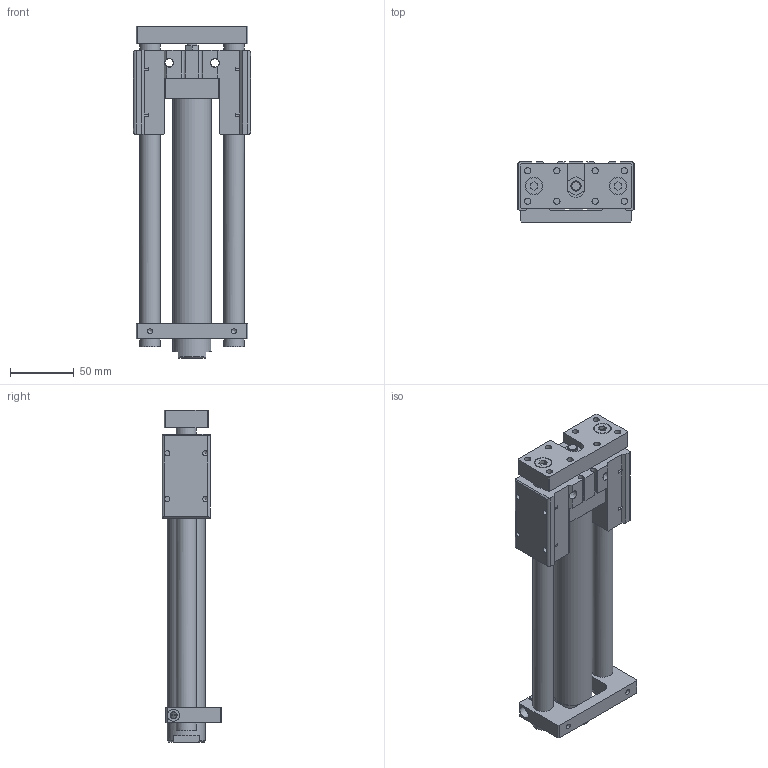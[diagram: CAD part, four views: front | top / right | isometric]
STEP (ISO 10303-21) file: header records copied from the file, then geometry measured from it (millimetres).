
FILE_DESCRIPTION((''),'2;1');
FILE_NAME('I:\3D電子目錄\氣缸\TMB(U)\TMB(U)\TMB(U)25\TMB(U)25x150.stp','2007-10-05T09:31:58',('Administrator'),(''),'Autodesk Inventor 11','Autodesk Inventor 11','');
FILE_SCHEMA(('AUTOMOTIVE_DESIGN { 1 0 10303 214 1 1 1 1 }'));
Length unit declared in the file: millimetre
Products named in the file (1): TMB(U)25
Bounding box: 92 x 47 x 261 mm (x, y, z)
Volume: 433924.7 mm3; surface area: 89025.9 mm2
Topology: 1 solids, 1 shells, 243 faces, 727 edges, 476 vertices
Faces by surface type: plane 149, bspline 49, cylinder 28, cone 17
Full cylindrical faces by diameter (mm): 4.134 x4, 5.5 x1, 8 x2, 9.5 x1, 13 x2, 14 x2, 16 x3, 30 x2
Entity records: 8294 total; most frequent: CARTESIAN_POINT 2323, ORIENTED_EDGE 1234, DIRECTION 1136, EDGE_CURVE 617, VERTEX_POINT 433, VECTOR 408, LINE 408, AXIS2_PLACEMENT_3D 364
